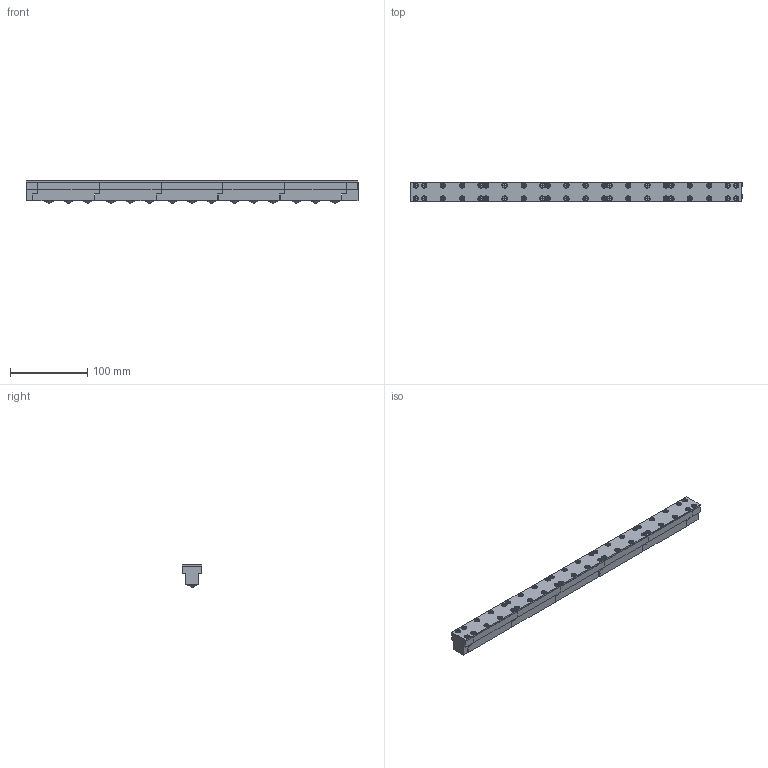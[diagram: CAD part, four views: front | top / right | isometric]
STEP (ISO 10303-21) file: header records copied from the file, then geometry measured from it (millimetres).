
FILE_DESCRIPTION(/* description */ (''),/* implementation_level */ '2;1');
FILE_NAME(/* name */ 'Z:\34-Tei\01-web 3Dデータ\43-ISR-18T\X2\578B\X0\\ISR-18T-430.stp',/* time_stamp */ '2015-01-16T10:27:39+09:00',/* author */ ('yamaki'),/* organization */ (''),/* preprocessor_version */ 'ST-DEVELOPER v15.6',/* originating_system */ 'Autodesk Inventor 2015',/* authorisation */ '');
FILE_SCHEMA (('AUTOMOTIVE_DESIGN { 1 0 10303 214 3 1 1 }'));
Length unit declared in the file: millimetre
Products named in the file (9): 4915; 4903TB; 4903CB; JIS B 1111 - Csunk M3 x 6 - H; JIS B 1176 - M3 x 10; 4903SL; A108AA; 4903PS; 4903AA
Bounding box: 430 x 25 x 28.97 mm (x, y, z)
Volume: 201595 mm3; surface area: 131171 mm2
Topology: 94 solids, 94 shells, 2451 faces, 6054 edges, 3887 vertices
Faces by surface type: plane 911, cone 787, cylinder 478, torus 245, sphere 15, bspline 15
Full cylindrical faces by diameter (mm): 2 x21, 2.459 x56, 2.693 x44, 3 x56, 3.242 x15, 3.5 x56, 5.5 x56, 6.2 x6, 8 x1, 10 x15, 13.4 x15, 13.9 x15, 14 x15, 16 x15, 19.8 x15, 20 x15
Entity records: 9453 total; most frequent: CARTESIAN_POINT 1795, DIRECTION 1646, ORIENTED_EDGE 1164, AXIS2_PLACEMENT_3D 699, EDGE_LOOP 589, EDGE_CURVE 582, VERTEX_POINT 461, FACE_OUTER_BOUND 297
